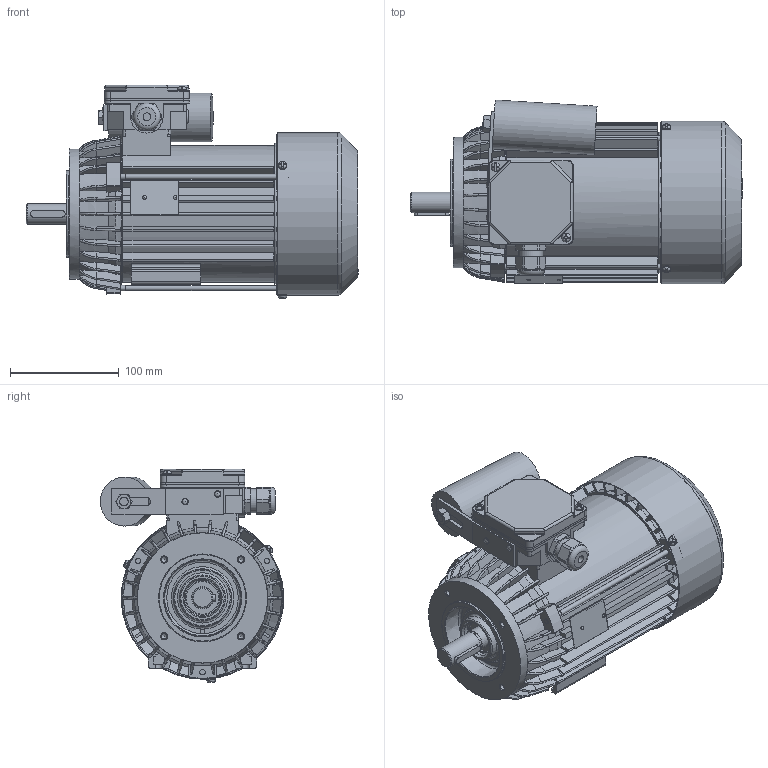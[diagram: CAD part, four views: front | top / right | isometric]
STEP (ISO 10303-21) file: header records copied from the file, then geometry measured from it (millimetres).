
FILE_DESCRIPTION(/* description */ ('Unknown'),/* implementation_level */ '2;1');
FILE_NAME(/* name */ '3SSIEK80-4B2',/* time_stamp */ '2024-06-18T09:40:25+02:00',/* author */ ('Unknown'),/* organization */ ('Unknown'),/* preprocessor_version */ 'ST-DEVELOPER v16.7',/* originating_system */ 'Solid Edge',/* authorisation */ 'Unknown');
FILE_SCHEMA (('AUTOMOTIVE_DESIGN {1 0 10303 214 3 1 1}'));
Products named in the file (1): Czêœæ15
Bounding box: 305.79 x 169.24 x 196.68 mm (x, y, z)
Volume: 1041030.7 mm3; surface area: 560587.8 mm2
Topology: 4 solids, 4 shells, 2540 faces, 7270 edges, 4699 vertices
Faces by surface type: plane 1226, cylinder 771, bspline 280, cone 126, torus 117, sphere 20
Full cylindrical faces by diameter (mm): 2 x2, 2.4 x2, 3 x2, 3.7 x8, 4 x6, 4.3 x2, 4.5 x3, 4.6 x3, 4.8 x2, 5 x12, 5.5 x3, 6 x2, 6.5 x1, 7 x1, 8 x10, 18.598 x1, 18.998 x1, 19.298 x1, 19.498 x1, 19.898 x1, 19.948 x1, 19.998 x2, 20.4 x2, 22.3 x1, 25 x1, 25.497 x1, 25.647 x1, 25.997 x3, 26.047 x1, 28.799 x4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
Entity records: 104610 total; most frequent: CARTESIAN_POINT 25372, ORIENTED_EDGE 13654, DIRECTION 12294, EDGE_CURVE 6827, VERTEX_POINT 4545, AXIS2_PLACEMENT_3D 4483, LINE 3328, VECTOR 3328
